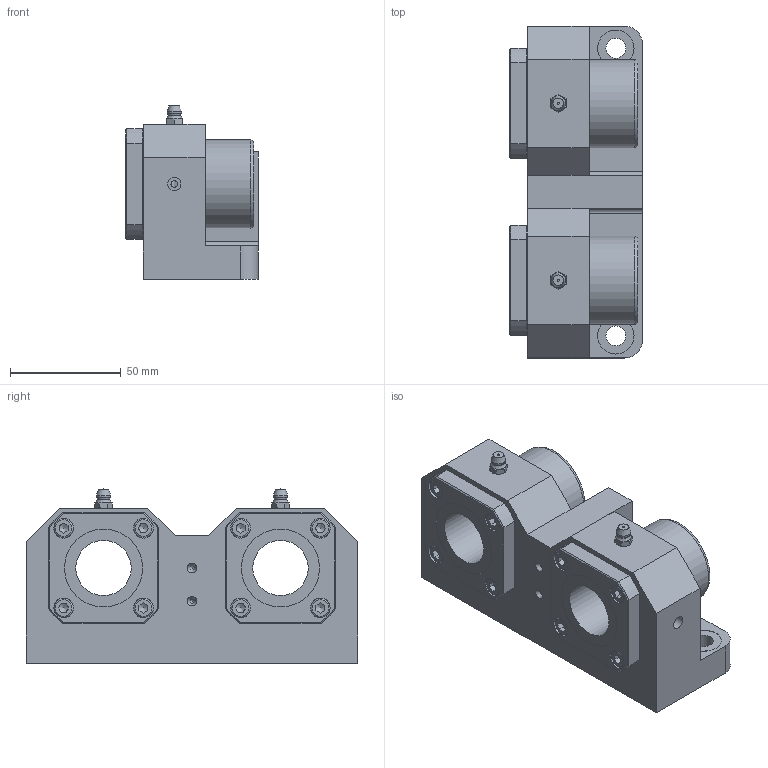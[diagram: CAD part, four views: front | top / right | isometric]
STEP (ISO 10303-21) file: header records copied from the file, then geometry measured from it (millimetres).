
FILE_DESCRIPTION((''),'2;1');
FILE_NAME('D:\製品 (図面)\カタログ用3D\リニアベアリング関連\STEP形式\LUF\LUF25.stp','2010-07-29T14:28:49',('Tsuchiya'),(''),'Autodesk Inventor 10','Autodesk Inventor 10','');
FILE_SCHEMA(('AUTOMOTIVE_DESIGN { 1 0 10303 214 1 1 1 1 }'));
Length unit declared in the file: millimetre
Products named in the file (4): LUF25; LUF251; LUF252; LUF253
Assembly tree (3 placements, depth 2):
  LUF25
    LUF251
    LUF252
    LUF253
Bounding box: 60 x 150 x 78.8 mm (x, y, z)
Volume: 379466.2 mm3; surface area: 84478 mm2
Topology: 13 solids, 13 shells, 358 faces, 786 edges, 494 vertices
Faces by surface type: plane 156, cylinder 82, cone 68, bspline 38, torus 10, sphere 4
Full cylindrical faces by diameter (mm): 2 x2, 3 x3, 5 x12, 5.5 x8, 6 x4, 8.5 x8, 9 x9, 16.5 x1, 25 x2, 35.3 x4, 40 x5
Entity records: 10767 total; most frequent: CARTESIAN_POINT 3959, DIRECTION 1336, ORIENTED_EDGE 1200, EDGE_CURVE 600, EDGE_LOOP 574, AXIS2_PLACEMENT_3D 565, VERTEX_POINT 448, FACE_OUTER_BOUND 358
